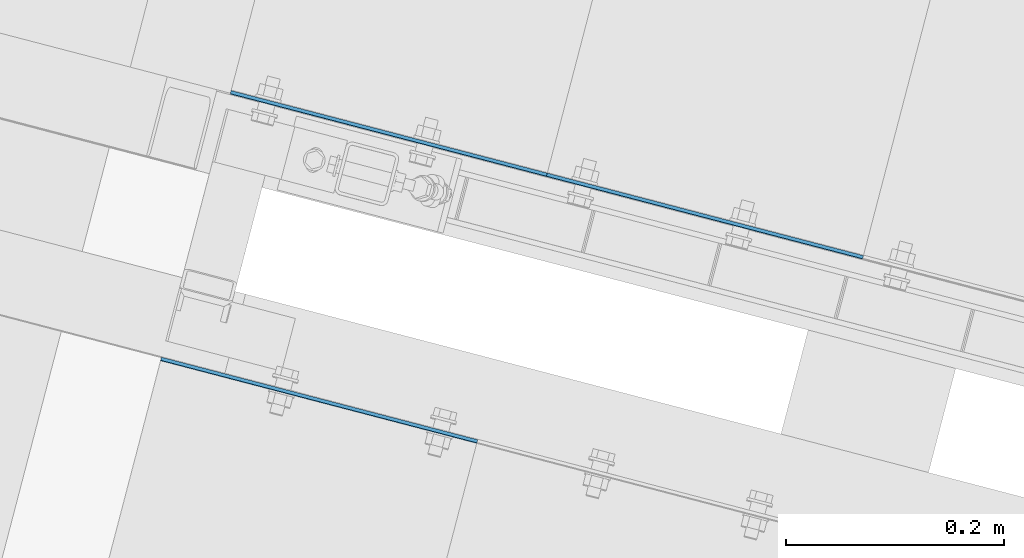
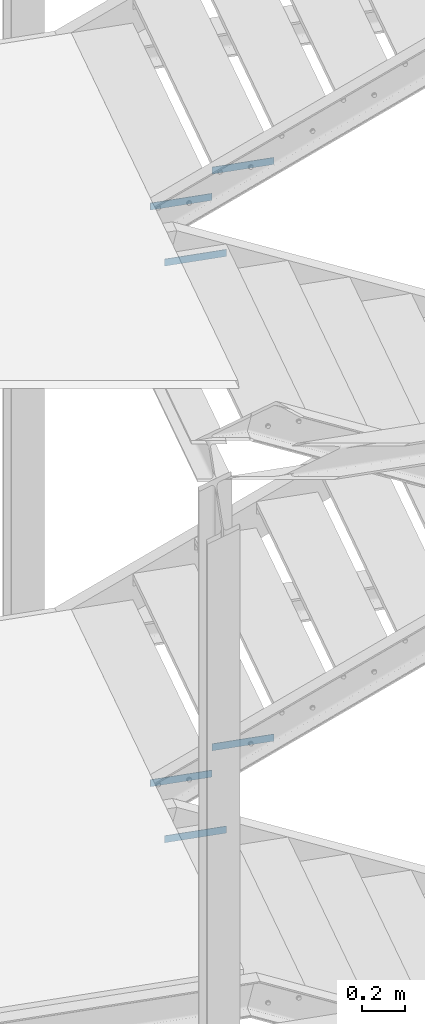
# One storey, part 72 of 169: 6 discrete accessories, 6 elements without a shape of their own.
"""IFC2X3 building model written with IfcOpenShell, lengths in millimetres."""

import ifcopenshell
import ifcopenshell.guid

model = None  # the IFC model being written
_history = None  # IfcOwnerHistory: only IFC2X3 demands one
_inside = {}  # id of a spatial element -> (the spatial element, [elements in it])
_under = {}  # id of a project, library or spatial element -> (it, [spatial elements below it])
_declared = {}  # id of a project -> (the project, [libraries it declares])
_typed = {}  # id of a type object -> (the type object, [elements of that type])
_made_of = {}  # id of a material, layer set ... -> (it, [elements and type objects made of it])


def new_model(schema):
    """Start an empty IFC model of exactly this schema.

    Asked for "IFC4X3", IfcOpenShell would pick the latest addendum, in which some entities
    have other attributes; the version numbers below select the first issue.
    IFC2X3 requires an IfcOwnerHistory on every rooted entity: one is made here for all.
    """
    global model, _history
    if schema == "IFC4X3":
        model = ifcopenshell.file(schema_version=(4, 3, 0, 0))
    else:
        model = ifcopenshell.file(schema=schema)
    _inside.clear()
    _under.clear()
    _declared.clear()
    _typed.clear()
    _made_of.clear()
    _history = None
    if model.schema == "IFC2X3":
        org = make("IfcOrganization", Name="unknown")
        user = make(
            "IfcPersonAndOrganization",
            ThePerson=make("IfcPerson", FamilyName="unknown"),
            TheOrganization=org,
        )
        app = make(
            "IfcApplication",
            ApplicationDeveloper=org,
            Version="unknown",
            ApplicationFullName="unknown",
            ApplicationIdentifier="unknown",
        )
        _history = make(
            "IfcOwnerHistory",
            OwningUser=user,
            OwningApplication=app,
            ChangeAction="ADDED",
            CreationDate=0,
        )
    return model


def make(cls, **values):
    """One entity of the class cls with the attributes given. An attribute that is None is left unset."""
    return model.create_entity(
        cls, **{name: value for name, value in values.items() if value is not None}
    )


def rooted(cls, **values):
    """An entity with a GlobalId (a new one), such as an element, a storey or a relation."""
    return make(cls, GlobalId=ifcopenshell.guid.new(), OwnerHistory=_history, **values)


def si_unit(unit_type, name, prefix=None):
    """IfcSIUnit, for example si_unit("LENGTHUNIT", "METRE", prefix="MILLI")."""
    return make("IfcSIUnit", UnitType=unit_type, Prefix=prefix, Name=name)


def assignment(units):
    """IfcUnitAssignment: the units of a project."""
    return None if units is None else make("IfcUnitAssignment", Units=units)


def point(xyz):
    """IfcCartesianPoint."""
    return None if xyz is None else make("IfcCartesianPoint", Coordinates=xyz)


def direction(xyz):
    """IfcDirection."""
    return None if xyz is None else make("IfcDirection", DirectionRatios=xyz)


def frame(location, z_axis=None, x_axis=None):
    """IfcAxis2Placement3D, a coordinate frame: its origin and axes. An axis left out is left unset."""
    return make(
        "IfcAxis2Placement3D",
        Location=point(location),
        Axis=direction(z_axis),
        RefDirection=direction(x_axis),
    )


def frame_2d(location, x_axis=None):
    """IfcAxis2Placement2D, a coordinate frame in the plane: its origin and x axis."""
    return make(
        "IfcAxis2Placement2D", Location=point(location), RefDirection=direction(x_axis)
    )


def origin_with_axes():
    """The frame at (0, 0, 0) with the z axis (0, 0, 1) and the x axis (1, 0, 0) written out."""
    return frame((0.0, 0.0, 0.0), z_axis=(0.0, 0.0, 1.0), x_axis=(1.0, 0.0, 0.0))


def origin_2d_with_axis():
    """The frame at (0, 0) in the plane with the x axis (1, 0) written out."""
    return frame_2d((0.0, 0.0), x_axis=(1.0, 0.0))


def place(relative_to, where):
    """IfcLocalPlacement: puts the frame where relative to a parent placement (None: the world)."""
    return make(
        "IfcLocalPlacement", PlacementRelTo=relative_to, RelativePlacement=where
    )


def context(
    kind, dimensions, precision=None, world=None, true_north=None, identifier=None
):
    """IfcGeometricRepresentationContext, for example the 3D "Model" context."""
    return make(
        "IfcGeometricRepresentationContext",
        ContextIdentifier=identifier,
        ContextType=kind,
        CoordinateSpaceDimension=dimensions,
        Precision=precision,
        WorldCoordinateSystem=world,
        TrueNorth=true_north,
    )


def subcontext(parent, identifier, kind, view, scale=None):
    """IfcGeometricRepresentationSubContext, for example "Body" below "Model"."""
    return make(
        "IfcGeometricRepresentationSubContext",
        ContextIdentifier=identifier,
        ContextType=kind,
        ParentContext=parent,
        TargetScale=scale,
        TargetView=view,
    )


def project(units=None, contexts=None):
    """IfcProject with its units and contexts."""
    return rooted(
        "IfcProject",
        Name="project",
        RepresentationContexts=contexts,
        UnitsInContext=assignment(units),
    )


def spatial(cls, under=None, at=None, **own):
    """A site, building, storey or space (cls), placed at a placement, below another one or the project."""
    s = rooted(cls, ObjectPlacement=at, **own)
    if under is not None:
        _under.setdefault(under.id(), (under, []))[1].append(s)
    return s


def profile(cls, at=None, kind="AREA", **sizes):
    """A parametric profile (cls). Its sizes go by their IFC names, for example OverallWidth=200.0."""
    return make(cls, ProfileType=kind, Position=at, **sizes)


def rectangle(**sizes):
    """IfcRectangleProfileDef."""
    return profile("IfcRectangleProfileDef", **sizes)


def extrude(swept, where, along, depth):
    """IfcExtrudedAreaSolid: the profile swept, set in the frame where, extruded along a direction by depth."""
    return make(
        "IfcExtrudedAreaSolid",
        SweptArea=swept,
        Position=where,
        ExtrudedDirection=direction(along),
        Depth=depth,
    )


def shape(context_of_items, identifier, shape_type, items):
    """IfcShapeRepresentation: the items that make up one representation, for example the "Body"."""
    return make(
        "IfcShapeRepresentation",
        ContextOfItems=context_of_items,
        RepresentationIdentifier=identifier,
        RepresentationType=shape_type,
        Items=items,
    )


def material(Name=None, Category=None):
    """IfcMaterial."""
    return make("IfcMaterial", Name=Name, Category=Category)


def made_of(thing, what):
    """Note that an element or type object is made of a material, layer set ...; save() writes the relation."""
    if what is not None:
        _made_of.setdefault(what.id(), (what, []))[1].append(thing)
    return thing


def type_object(cls, material=None, **own):
    """A type object (cls), such as IfcWallType, which elements share."""
    return made_of(rooted(cls, **own), material)


def element(
    cls,
    number,
    at=None,
    inside=None,
    cuts=None,
    type_object=None,
    material=None,
    context=None,
    identifier="Body",
    shape_type=None,
    held_by="IfcProductDefinitionShape",
    body=None,
    shapes=None,
    **own,
):
    """One element of the class cls, such as IfcWall. Its Tag is "e" and its number.

    at: its placement. inside: the storey or other place that contains it. cuts: it is an
    opening in that element (IfcRelVoidsElement). A single representation is given by context,
    identifier, shape_type and body (its items); several are given by shapes. held_by: the class
    of the entity that holds the representations. save() writes the other relations.
    """
    e = rooted(cls, Tag="e%d" % number, ObjectPlacement=at, **own)
    if body is not None:
        shapes = [shape(context, identifier, shape_type, body)]
    if shapes is not None:
        e.Representation = make(held_by, Representations=shapes)
    if inside is not None:
        _inside.setdefault(inside.id(), (inside, []))[1].append(e)
    if cuts is not None:
        rooted(
            "IfcRelVoidsElement", RelatingBuildingElement=cuts, RelatedOpeningElement=e
        )
    if type_object is not None:
        _typed.setdefault(type_object.id(), (type_object, []))[1].append(e)
    return made_of(e, material)


def aggregate(whole, parts):
    """IfcRelAggregates: a whole, such as a stair, and the parts it consists of."""
    return rooted("IfcRelAggregates", RelatingObject=whole, RelatedObjects=parts)


def save(model, path):
    """Write the relations noted so far, then the file.

    IfcRelAggregates (storeys below a building ...), IfcRelContainedInSpatialStructure (elements
    in a storey), IfcRelDefinesByType, IfcRelAssociatesMaterial and IfcRelDeclares: one each for
    every whole, place, type object, material and project.
    """
    for whole, parts in _under.values():
        aggregate(whole, parts)
    for where, things in _inside.values():
        rooted(
            "IfcRelContainedInSpatialStructure",
            RelatedElements=things,
            RelatingStructure=where,
        )
    for kind, things in _typed.values():
        rooted("IfcRelDefinesByType", RelatedObjects=things, RelatingType=kind)
    for what, things in _made_of.values():
        rooted("IfcRelAssociatesMaterial", RelatedObjects=things, RelatingMaterial=what)
    for by, libraries in _declared.values():
        rooted("IfcRelDeclares", RelatingContext=by, RelatedDefinitions=libraries)
    model.write(path)


model = new_model("IFC2X3")

# Units and contexts
model_context = context("Model", 3, precision=1e-05, world=origin_with_axes())
body_context = subcontext(model_context, "Body", "Model", "MODEL_VIEW")
ifc_project = project(units=[si_unit("LENGTHUNIT", "METRE", prefix="MILLI"), si_unit("AREAUNIT", "SQUARE_METRE"), si_unit("VOLUMEUNIT", "CUBIC_METRE"), si_unit("MASSUNIT", "GRAM", prefix="KILO"), si_unit("TIMEUNIT", "SECOND"), si_unit("PLANEANGLEUNIT", "RADIAN"), si_unit("SOLIDANGLEUNIT", "STERADIAN"), si_unit("THERMODYNAMICTEMPERATUREUNIT", "DEGREE_CELSIUS"), si_unit("LUMINOUSINTENSITYUNIT", "LUMEN")], contexts=[model_context])

# Site, building, storey
site_placement = place(None, origin_with_axes())
site = spatial("IfcSite", under=ifc_project, at=site_placement, Name="Undefined", CompositionType="ELEMENT")
building_placement = place(site_placement, origin_with_axes())
building = spatial("IfcBuilding", under=site, at=building_placement, Name="Undefined", CompositionType="ELEMENT")
storey_placement = place(building_placement, origin_with_axes())
storey = spatial("IfcBuildingStorey", under=building, at=storey_placement, Name="Undefined", CompositionType="ELEMENT", Elevation=0.0)

# Assembly, discrete accessory
assembly_1_placement = place(storey_placement, origin_with_axes())
assembly_1 = element("IfcElementAssembly", 1, at=assembly_1_placement, inside=storey, Name="Steel Assembly", AssemblyPlace="NOTDEFINED", PredefinedType="RIGID_FRAME")
ifc_material = material(Name="STEEL/S235JR")
discrete_accessory_type = type_object("IfcDiscreteAccessoryType", Name="ANGLE")
discrete_accessory_1_placement = place(assembly_1_placement, frame((-27338.6218850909, 7259.37474094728, 9180.09581681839), z_axis=(0.252562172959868, 0.967580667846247, 0.0), x_axis=(-0.967580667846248, 0.252562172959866, 0.0)))
discrete_accessory_1 = element("IfcDiscreteAccessory", 2, at=discrete_accessory_1_placement, type_object=discrete_accessory_type, material=ifc_material, Name="ANGLE", ObjectType="3*40", context=body_context, shape_type="SweptSolid", body=[
    extrude(rectangle(XDim=40.0, YDim=3.0, at=origin_2d_with_axis()), frame((300.000000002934, 1.81898940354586e-12, -1.81898940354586e-12), z_axis=(-1.0, -3.46944695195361e-18, -1.38777878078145e-17), x_axis=(1.73472347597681e-18, -1.0, 0.0)), (0.0, 0.0, 1.0), 300.0),
])
aggregate(assembly_1, [discrete_accessory_1])

assembly_2_placement = place(storey_placement, origin_with_axes())
assembly_2 = element("IfcElementAssembly", 3, at=assembly_2_placement, inside=storey, Name="Steel Assembly", AssemblyPlace="NOTDEFINED", PredefinedType="RIGID_FRAME")
discrete_accessory_2_placement = place(assembly_2_placement, frame((-27628.8960888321, 7335.14339375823, 9030.09581681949), z_axis=(0.252562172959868, 0.967580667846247, 0.0), x_axis=(-0.967580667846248, 0.252562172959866, 0.0)))
discrete_accessory_2 = element("IfcDiscreteAccessory", 4, at=discrete_accessory_2_placement, type_object=discrete_accessory_type, material=ifc_material, Name="ANGLE", ObjectType="3*40", context=body_context, shape_type="SweptSolid", body=[
    extrude(rectangle(XDim=40.0, YDim=3.0, at=origin_2d_with_axis()), frame((300.000000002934, 1.81898940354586e-12, -1.81898940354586e-12), z_axis=(-1.0, -3.46944695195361e-18, -1.38777878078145e-17), x_axis=(1.73472347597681e-18, -1.0, 0.0)), (0.0, 0.0, 1.0), 300.0),
])
aggregate(assembly_2, [discrete_accessory_2])

assembly_3_placement = place(storey_placement, origin_with_axes())
assembly_3 = element("IfcElementAssembly", 5, at=assembly_3_placement, inside=storey, Name="Steel Assembly", AssemblyPlace="NOTDEFINED", PredefinedType="RIGID_FRAME")
discrete_accessory_3_placement = place(assembly_3_placement, frame((-27983.0852908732, 7166.11852813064, 8880.32161330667), z_axis=(-0.252694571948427, -0.96754609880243, 0.0), x_axis=(0.96754609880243, -0.252694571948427, 0.0)))
discrete_accessory_3 = element("IfcDiscreteAccessory", 6, at=discrete_accessory_3_placement, type_object=discrete_accessory_type, material=ifc_material, Name="ANGLE", ObjectType="3*40", context=body_context, shape_type="SweptSolid", body=[
    extrude(rectangle(XDim=40.0, YDim=3.0, at=origin_2d_with_axis()), frame((300.000000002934, 1.81898940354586e-12, -1.81898940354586e-12), z_axis=(-1.0, -3.46944695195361e-18, -1.38777878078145e-17), x_axis=(1.73472347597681e-18, -1.0, 0.0)), (0.0, 0.0, 1.0), 300.0),
])
aggregate(assembly_3, [discrete_accessory_3])

assembly_4_placement = place(storey_placement, origin_with_axes())
assembly_4 = element("IfcElementAssembly", 7, at=assembly_4_placement, inside=storey, Name="Steel Assembly", AssemblyPlace="NOTDEFINED", PredefinedType="RIGID_FRAME")
discrete_accessory_4_placement = place(assembly_4_placement, frame((-27338.7359625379, 7258.93782600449, 5880.09584768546), z_axis=(0.252562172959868, 0.967580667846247, 0.0), x_axis=(-0.967580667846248, 0.252562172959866, 0.0)))
discrete_accessory_4 = element("IfcDiscreteAccessory", 8, at=discrete_accessory_4_placement, type_object=discrete_accessory_type, material=ifc_material, Name="ANGLE", ObjectType="3*40", context=body_context, shape_type="SweptSolid", body=[
    extrude(rectangle(XDim=40.0, YDim=3.0, at=origin_2d_with_axis()), frame((300.000000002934, 1.81898940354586e-12, -1.81898940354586e-12), z_axis=(-1.0, -3.46944695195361e-18, -1.38777878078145e-17), x_axis=(1.73472347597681e-18, -1.0, 0.0)), (0.0, 0.0, 1.0), 300.0),
])
aggregate(assembly_4, [discrete_accessory_4])

assembly_5_placement = place(storey_placement, origin_with_axes())
assembly_5 = element("IfcElementAssembly", 9, at=assembly_5_placement, inside=storey, Name="Steel Assembly", AssemblyPlace="NOTDEFINED", PredefinedType="RIGID_FRAME")
discrete_accessory_5_placement = place(assembly_5_placement, frame((-27629.0101662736, 7334.70647881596, 5730.09584768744), z_axis=(0.252562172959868, 0.967580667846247, 0.0), x_axis=(-0.967580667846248, 0.252562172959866, 0.0)))
discrete_accessory_5 = element("IfcDiscreteAccessory", 10, at=discrete_accessory_5_placement, type_object=discrete_accessory_type, material=ifc_material, Name="ANGLE", ObjectType="3*40", context=body_context, shape_type="SweptSolid", body=[
    extrude(rectangle(XDim=40.0, YDim=3.0, at=origin_2d_with_axis()), frame((300.000000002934, 1.81898940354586e-12, -1.81898940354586e-12), z_axis=(-1.0, -3.46944695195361e-18, -1.38777878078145e-17), x_axis=(1.73472347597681e-18, -1.0, 0.0)), (0.0, 0.0, 1.0), 300.0),
])
aggregate(assembly_5, [discrete_accessory_5])

assembly_6_placement = place(storey_placement, origin_with_axes())
assembly_6 = element("IfcElementAssembly", 11, at=assembly_6_placement, inside=storey, Name="Steel Assembly", AssemblyPlace="NOTDEFINED", PredefinedType="RIGID_FRAME")
discrete_accessory_6_placement = place(assembly_6_placement, frame((-27983.1993683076, 7165.68161318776, 5580.32164421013), z_axis=(-0.252694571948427, -0.96754609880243, 0.0), x_axis=(0.96754609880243, -0.252694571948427, 0.0)))
discrete_accessory_6 = element("IfcDiscreteAccessory", 12, at=discrete_accessory_6_placement, type_object=discrete_accessory_type, material=ifc_material, Name="ANGLE", ObjectType="3*40", context=body_context, shape_type="SweptSolid", body=[
    extrude(rectangle(XDim=40.0, YDim=3.0, at=origin_2d_with_axis()), frame((300.000000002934, 1.81898940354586e-12, -1.81898940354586e-12), z_axis=(-1.0, -3.46944695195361e-18, -1.38777878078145e-17), x_axis=(1.73472347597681e-18, -1.0, 0.0)), (0.0, 0.0, 1.0), 300.0),
])
aggregate(assembly_6, [discrete_accessory_6])

save(model, "model.ifc")
